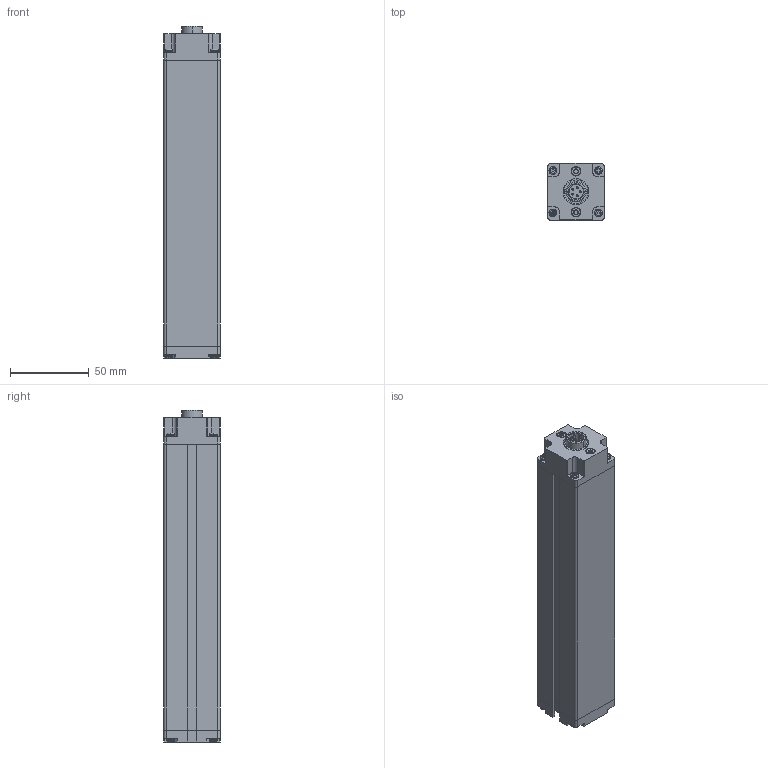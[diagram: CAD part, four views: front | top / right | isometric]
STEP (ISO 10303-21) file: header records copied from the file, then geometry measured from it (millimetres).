
FILE_DESCRIPTION((''),'2;1');
FILE_NAME('HF-1X1_ASM','2022-09-08T',('Administrator'),(''),'PRO/ENGINEER BY PARAMETRIC TECHNOLOGY CORPORATION, 2010280','PRO/ENGINEER BY PARAMETRIC TECHNOLOGY CORPORATION, 2010280','');
FILE_SCHEMA(('AUTOMOTIVE_DESIGN_CC2 { 1 2 10303 214 -1 1 5 2 }'));
Length unit declared in the file: millimetre
Products named in the file (9): HF1X1-SHELL; HF1X1-PCB; HF1X1-WINDOWS; HF1X1-COVER-TOP; HF1X1-COVER-BOTTOM; HF1X1-LZ; HF1X1-M13-5PIN; HF1X1-M3-10; HF-1X1_ASM
Assembly tree (18 placements, depth 2):
  HF-1X1_ASM
    HF1X1-SHELL
    HF1X1-PCB
    HF1X1-WINDOWS
    HF1X1-COVER-TOP
    HF1X1-COVER-BOTTOM
    HF1X1-LZ  x4
    HF1X1-M13-5PIN
    HF1X1-M3-10  x8
Bounding box: 35.8 x 36 x 211.4 mm (x, y, z)
Volume: 106533.6 mm3; surface area: 95216.1 mm2
Topology: 18 solids, 18 shells, 1266 faces, 3483 edges, 2280 vertices
Faces by surface type: cylinder 806, plane 300, bspline 106, torus 34, cone 20
Entity records: 25441 total; most frequent: CARTESIAN_POINT 8780, DIRECTION 3330, ORIENTED_EDGE 3230, EDGE_CURVE 1615, AXIS2_PLACEMENT_3D 1267, VERTEX_POINT 1065, VECTOR 796, LINE 796
